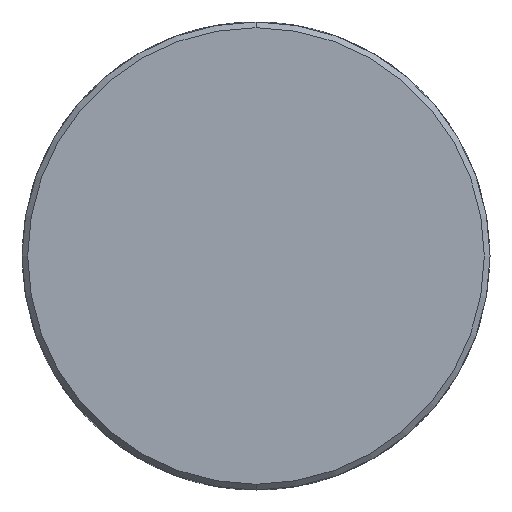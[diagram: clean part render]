
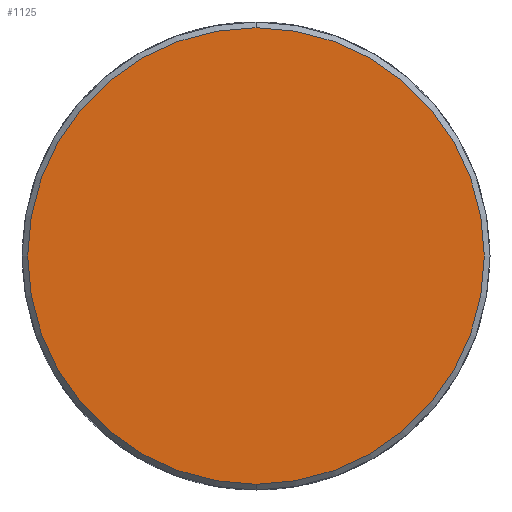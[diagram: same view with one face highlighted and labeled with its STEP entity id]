
A CAD part, front view. The second image highlights one B-rep face of the part: STEP entity #1125.
In plain terms, the highlighted planar face has unit normal (0, -1, 0).
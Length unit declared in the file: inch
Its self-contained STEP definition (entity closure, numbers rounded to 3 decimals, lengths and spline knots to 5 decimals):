
#129 = VERTEX_POINT ( 'NONE', #1994 ) ;
#162 = VERTEX_POINT ( 'NONE', #2006 ) ;
#163 = EDGE_CURVE ( 'NONE', #129, #162, #2004, .T. ) ;
#1104 = ORIENTED_EDGE ( 'NONE', *, *, #163, .T. ) ;
#1125 = ADVANCED_FACE ( 'NONE', ( #3948 ), #3947, .F. ) ;
#1126 = EDGE_LOOP ( 'NONE', ( #1127, #1104 ) ) ;
#1127 = ORIENTED_EDGE ( 'NONE', *, *, #1128, .T. ) ;
#1128 = EDGE_CURVE ( 'NONE', #162, #129, #3981, .T. ) ;
#1994 = CARTESIAN_POINT ( 'NONE',  ( 0., 0., -2.39 ) ) ;
#2000 = DIRECTION ( 'NONE',  ( 0., 0., 1. ) ) ;
#2001 = DIRECTION ( 'NONE',  ( 0., -1., 0. ) ) ;
#2002 = CARTESIAN_POINT ( 'NONE',  ( 0., 0., 0. ) ) ;
#2003 = AXIS2_PLACEMENT_3D ( 'NONE', #2002, #2001, #2000 ) ;
#2004 = CIRCLE ( 'NONE', #2003, 2.39 ) ;
#2006 = CARTESIAN_POINT ( 'NONE',  ( 0., 0., 2.39 ) ) ;
#3947 = PLANE ( 'NONE',  #3985 ) ;
#3948 = FACE_OUTER_BOUND ( 'NONE', #1126, .T. ) ;
#3977 = DIRECTION ( 'NONE',  ( 0., 0., 1. ) ) ;
#3978 = DIRECTION ( 'NONE',  ( 0., -1., 0. ) ) ;
#3979 = CARTESIAN_POINT ( 'NONE',  ( 0., 0., 0. ) ) ;
#3980 = AXIS2_PLACEMENT_3D ( 'NONE', #3979, #3978, #3977 ) ;
#3981 = CIRCLE ( 'NONE', #3980, 2.39 ) ;
#3982 = DIRECTION ( 'NONE',  ( 0., 0., 1. ) ) ;
#3983 = DIRECTION ( 'NONE',  ( 0., 1., 0. ) ) ;
#3984 = CARTESIAN_POINT ( 'NONE',  ( 0., 0., 0. ) ) ;
#3985 = AXIS2_PLACEMENT_3D ( 'NONE', #3984, #3983, #3982 ) ;
